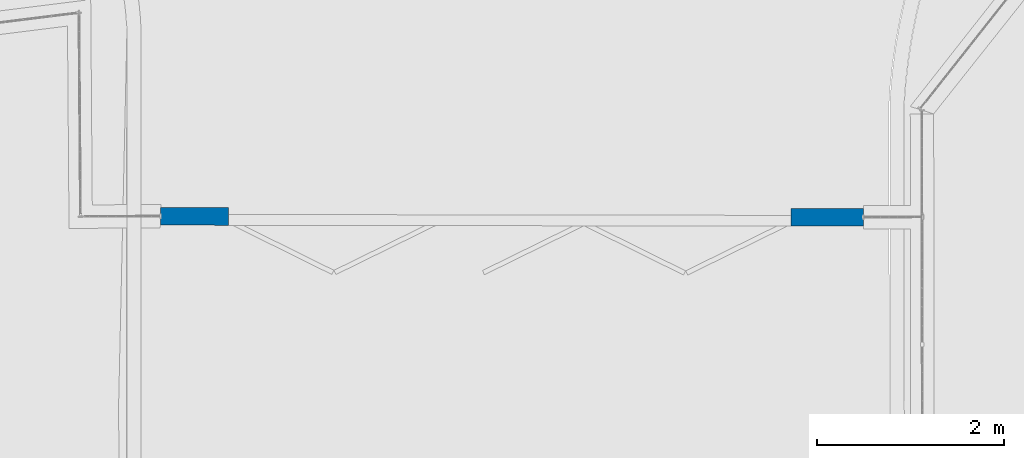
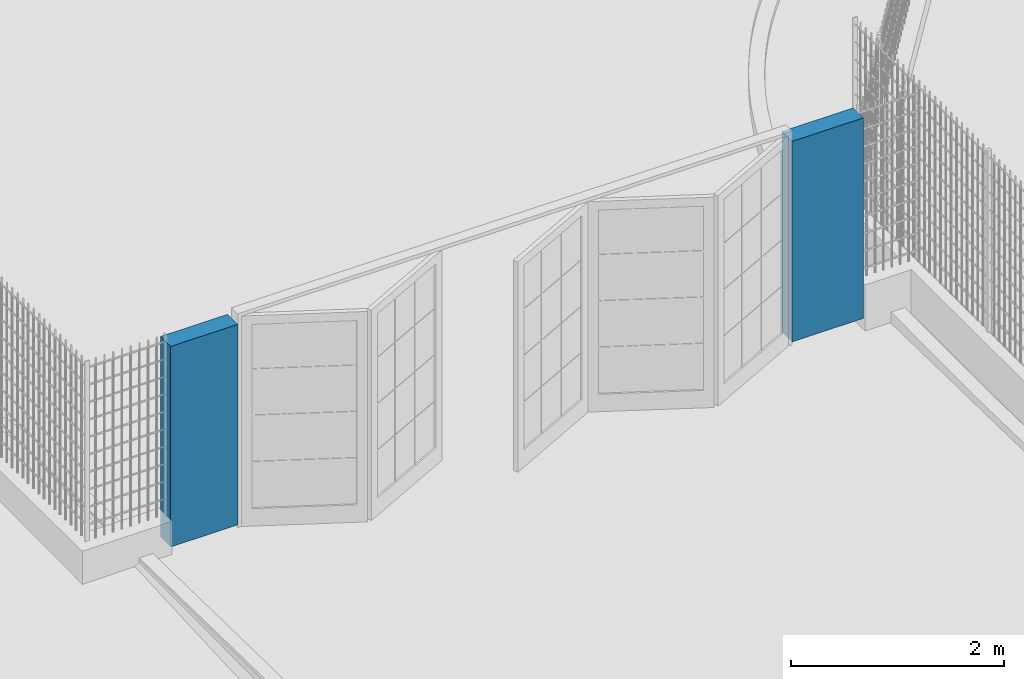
# One storey, part 4 of 1809: 1 wall, 1 opening.
"""IFC2X3 building model written with IfcOpenShell, lengths in millimetres."""

from ifc_helpers import new_model, entity, si_unit, converted_unit, derived_unit, money_unit, direction, frame, origin_with_axes, origin_2d_with_axis, place, context, subcontext, project, spatial, polyline, rectangle, outline, extrude, material, layer, layer_set, layer_usage, type_object, element, save


model = new_model("IFC2X3")

# Units and contexts
model_context = context("Model", 3, precision=0.01, world=origin_with_axes(), true_north=direction((0.0, 1.0)))
body_context = subcontext(model_context, "Body", "Model", "MODEL_VIEW")
ifc_project = project(units=[si_unit("LENGTHUNIT", "METRE", prefix="MILLI"), si_unit("AREAUNIT", "SQUARE_METRE"), si_unit("VOLUMEUNIT", "CUBIC_METRE"), converted_unit("PLANEANGLEUNIT", "DEGREE", entity("IfcPlaneAngleMeasure", 0.0174532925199), si_unit("PLANEANGLEUNIT", "RADIAN"), dimensions=[0, 0, 0, 0, 0, 0, 0]), si_unit("SOLIDANGLEUNIT", "STERADIAN"), money_unit("EUR"), converted_unit("TIMEUNIT", "Year", entity("IfcTimeMeasure", 31556926.0), si_unit("TIMEUNIT", "SECOND"), dimensions=[0, 0, 1, 0, 0, 0, 0]), si_unit("MASSUNIT", "GRAM", prefix="KILO"), si_unit("THERMODYNAMICTEMPERATUREUNIT", "DEGREE_CELSIUS"), si_unit("LUMINOUSINTENSITYUNIT", "LUMEN"), si_unit("ENERGYUNIT", "JOULE", prefix="MEGA"), derived_unit("THERMALCONDUCTANCEUNIT", [(si_unit("POWERUNIT", "WATT"), 1), (si_unit("LENGTHUNIT", "METRE"), -1), (si_unit("THERMODYNAMICTEMPERATUREUNIT", "KELVIN"), -1)]), derived_unit("SPECIFICHEATCAPACITYUNIT", [(si_unit("ENERGYUNIT", "JOULE"), 1), (si_unit("MASSUNIT", "GRAM", prefix="KILO"), -1), (si_unit("THERMODYNAMICTEMPERATUREUNIT", "KELVIN"), -1)]), derived_unit("MASSDENSITYUNIT", [(si_unit("MASSUNIT", "GRAM", prefix="KILO"), 1), (si_unit("VOLUMEUNIT", "CUBIC_METRE"), -1)])], contexts=[model_context])

# Site, building, storey
site_placement = place(None, origin_with_axes())
site = spatial("IfcSite", under=ifc_project, at=site_placement, Name="Politse- ja Piirivalveameti ning Päästeameti ühishoone", CompositionType="ELEMENT")
building_placement = place(site_placement, origin_with_axes())
building = spatial("IfcBuilding", under=site, at=building_placement, Name="Politse- ja Piirivalveameti ning Päästeameti ühishoone", CompositionType="ELEMENT")
storey_placement = place(building_placement, origin_with_axes())
storey = spatial("IfcBuildingStorey", under=building, at=storey_placement, Name="Esimene korrus", CompositionType="ELEMENT", Elevation=0.0)

# Wall, opening
ifc_material = material(Name="KON-05_Betoon Plokk - Konstuktsioon")
ifc_layer = layer(ifc_material, 190.0, ventilated="UNKNOWN")
ifc_layer_set = layer_set([ifc_layer], Name="SS-03_Sisesein 190")
ifc_layer_usage = layer_usage(ifc_layer_set, "AXIS2", "POSITIVE", -95.0)
wall_type = type_object("IfcWallType", Name="SS-03_Sisesein 190 190", PredefinedType="NOTDEFINED")
wall_placement = place(storey_placement, frame((51484.2254519, 75074.4356839, 0.0), z_axis=(0.0, 0.0, 1.0), x_axis=(0.999998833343, -0.00152751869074, 0.0)))
wall = element("IfcWallStandardCase", 1, at=wall_placement, inside=storey, type_object=wall_type, material=ifc_layer_usage, Name="Välissein", context=body_context, shape_type="SweptSolid", body=[
    extrude(outline(polyline([(0.0, -95.0), (7498.53178102, -95.0), (7498.53178102, 95.0), (0.0, 95.0), (0.0, -95.0)])), origin_with_axes(), (0.0, 0.0, 1.0), 2296.76236726),
])
opening_placement = place(wall_placement, frame((3726.45596276, 0.0, -32.429763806), z_axis=(0.0, 0.0, 1.0), x_axis=(1.0, 0.0, 0.0)))
element("IfcOpeningElement", 2, at=opening_placement, cuts=wall, Name="VOLDIKV2RAV", context=body_context, shape_type="SweptSolid", body=[
    extrude(rectangle(XDim=6000.0, YDim=2450.0, at=origin_2d_with_axis()), frame((0.0, 190.0, 1225.0), z_axis=(0.0, 1.0, 0.0), x_axis=(1.0, 0.0, 0.0)), (0.0, 0.0, -1.0), 570.0),
])

save(model, "model.ifc")
